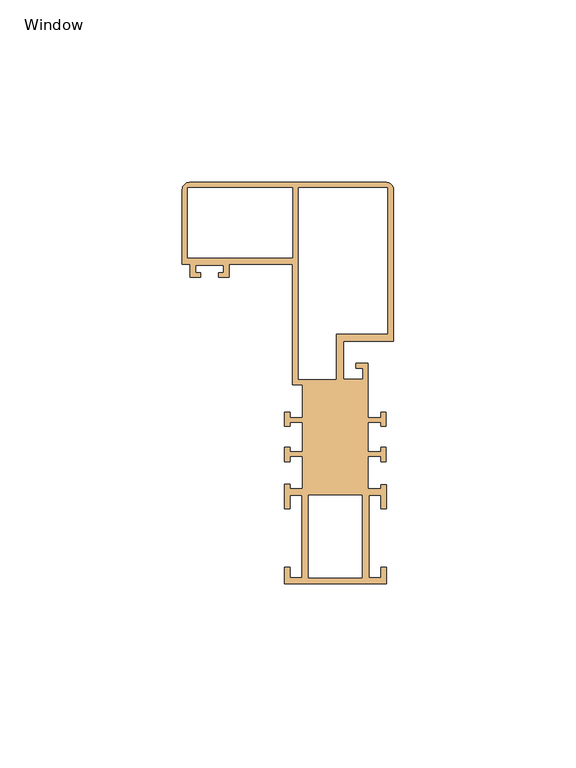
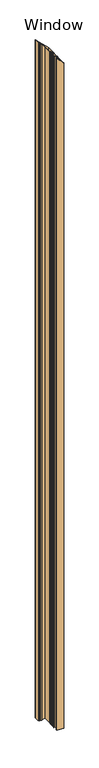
"""IFC4 building model written with IfcOpenShell, lengths in millimetres: door geometry, QO-V-QB_Door Module : Window."""

from ifc_helpers import new_model, si_unit, frame, origin, place, context, project, spatial, circle_curve, ellipse_curve, source, transform, mapped, element, save
from ifc_brep_helpers import plane_surface, cylinder_surface, advanced_brep


def window_384785f8(model_context):
    return source(origin(), model_context, "Body", "AdvancedBrep", [
        advanced_brep(
        [(-970.9523452, -75.0037405, -10.0), (-974.4523458, -75.0037405, -10.0), (-974.4523458, -76.5037405, -10.0), (-975.9523458, -76.5037405, -10.0), (-975.9523458, -72.6037405, -10.0), (-974.4523458, -72.6037405, -10.0), (-974.4523458, -73.8037405, -10.0), (-970.9523458, -73.8037405, -10.0), (-970.9523458, -65.7037405, -10.0), (-974.4523458, -65.7037405, -10.0), (-974.4523458, -66.9037405, -10.0), (-975.9523458, -66.9037405, -10.0), (-975.9523458, -63.0037405, -10.0), (-974.4523458, -63.0037405, -10.0), (-974.4523458, -64.5037405, -10.0), (-970.9523459, -64.5037405, -10.0), (-970.9523459, -55.4999986, -10.0), (-973.8, -55.4999986, -10.0), (-973.8, -22.4, -10.0), (-991.2018295, -22.4, -10.0), (-991.2018295, -26.0, -10.0), (-994.0018295, -26.0, -10.0), (-994.0018295, -24.7, -10.0), (-992.7018295, -24.7, -10.0), (-992.7018295, -22.7, -10.0), (-1000.3018295, -22.7, -10.0), (-1000.3018295, -24.8, -10.0), (-999.0018295, -24.8, -10.0), (-999.0018295, -26.0, -10.0), (-1001.8018295, -26.0, -10.0), (-1001.8018295, -22.4, -10.0), (-1004.0, -22.4, -10.0), (-1004.0, -2.0, -10.0), (-1002.0, 0.0, -10.0), (-948.0, 0.0, -10.0), (-946.0, -2.0, -10.0), (-946.0, -43.5, -10.0), (-959.8, -43.5, -10.0), (-959.8, -54.0, -10.0), (-954.4, -54.0, -10.0), (-954.4, -51.0, -10.0), (-956.3, -51.0, -10.0), (-956.3, -49.6, -10.0), (-953.0, -49.6, -10.0), (-953.0, -64.5037405, -10.0), (-949.5513133, -64.5037405, -10.0), (-949.5513133, -63.0037405, -10.0), (-948.0513133, -63.0037405, -10.0), (-948.0513133, -66.9037405, -10.0), (-949.5513133, -66.9037405, -10.0), (-949.5513133, -65.7037405, -10.0), (-953.0513133, -65.7037405, -10.0), (-953.0513133, -73.8037405, -10.0), (-949.5513133, -73.8037405, -10.0), (-949.5513133, -72.6037405, -10.0), (-948.0513133, -72.6037405, -10.0), (-948.0513133, -76.5037405, -10.0), (-949.5513133, -76.5037405, -10.0), (-949.5513133, -75.0037405, -10.0), (-953.0513139, -75.0037405, -10.0), (-953.0513139, -84.0037561, -10.0), (-949.5018295, -84.0037561, -10.0), (-949.5018295, -82.8037561, -10.0), (-948.0018295, -82.8037561, -10.0), (-948.0018295, -89.5037561, -10.0), (-949.5018295, -89.5037561, -10.0), (-949.5018295, -85.7037561, -10.0), (-952.8018295, -85.7037561, -10.0), (-952.8018295, -108.3037561, -10.0), (-949.5018295, -108.3037561, -10.0), (-949.5018295, -105.5037561, -10.0), (-948.0018295, -105.5037561, -10.0), (-948.0018295, -110.0037561, -10.0), (-976.0018295, -110.0037561, -10.0), (-976.0018295, -105.5037561, -10.0), (-974.5018295, -105.5037561, -10.0), (-974.5018295, -108.3037561, -10.0), (-971.2018295, -108.3037561, -10.0), (-971.2018295, -85.7037561, -10.0), (-974.5018295, -85.7037561, -10.0), (-974.5018295, -89.5037561, -10.0), (-976.0018295, -89.5037561, -10.0), (-976.0018295, -82.8037561, -10.0), (-974.5018295, -82.8037561, -10.0), (-974.5018295, -84.0037561, -10.0), (-970.9523452, -84.0037561, -10.0), (-973.8, -1.5, -10.0), (-1002.5, -1.5, -10.0), (-1002.5, -20.7, -10.0), (-973.8, -20.7, -10.0), (-961.8, -41.5, -10.0), (-947.7, -41.5, -10.0), (-947.7, -1.5, -10.0), (-972.1, -1.5, -10.0), (-972.1, -54.0, -10.0), (-961.8, -54.0, -10.0), (-954.7018295, -108.3037561, -10.0), (-954.7018295, -85.7037561, -10.0), (-969.3018295, -85.7037561, -10.0), (-969.3018295, -108.3037561, -10.0), (-970.9523452, -75.0037405, 2954.4523452), (-974.4523458, -75.0037405, 2957.9523458), (-974.4523458, -76.5037405, 2957.9523458), (-975.9523458, -76.5037405, 2959.4523458), (-975.9523458, -72.6037405, 2959.4523458), (-974.4523458, -72.6037405, 2957.9523458), (-974.4523458, -73.8037405, 2957.9523458), (-970.9523458, -73.8037405, 2954.4523458), (-970.9523458, -65.7037405, 2954.4523458), (-974.4523458, -65.7037405, 2957.9523458), (-974.4523458, -66.9037405, 2957.9523458), (-975.9523458, -66.9037405, 2959.4523458), (-975.9523458, -63.0037405, 2959.4523458), (-974.4523458, -63.0037405, 2957.9523458), (-974.4523458, -64.5037405, 2957.9523458), (-970.9523459, -64.5037405, 2954.4523459), (-970.9523459, -55.4999986, 2954.4523459), (-973.8, -55.4999986, 2957.3), (-973.8, -22.4, 2957.3), (-991.2018295, -22.4, 2974.7018295), (-991.2018295, -26.0, 2974.7018295), (-994.0018295, -26.0, 2977.5018295), (-994.0018295, -24.7, 2977.5018295), (-992.7018295, -24.7, 2976.2018295), (-992.7018295, -22.7, 2976.2018295), (-1000.3018295, -22.7, 2983.8018295), (-1000.3018295, -24.8, 2983.8018295), (-999.0018295, -24.8, 2982.5018295), (-999.0018295, -26.0, 2982.5018295), (-1001.8018295, -26.0, 2985.3018295), (-1001.8018295, -22.4, 2985.3018295), (-1004.0, -22.4, 2987.5), (-1004.0, -2.0, 2987.5), (-1002.0, 0.0, 2985.5), (-948.0, 0.0, 2931.5), (-946.0, -2.0, 2929.5), (-946.0, -43.5, 2929.5), (-959.8, -43.5, 2943.3), (-959.8, -54.0, 2943.3), (-954.4, -54.0, 2937.9), (-954.4, -51.0, 2937.9), (-956.3, -51.0, 2939.8), (-956.3, -49.6, 2939.8), (-953.0, -49.6, 2936.5), (-953.0, -64.5037405, 2936.5), (-949.5513133, -64.5037405, 2933.0513133), (-949.5513133, -63.0037405, 2933.0513133), (-948.0513133, -63.0037405, 2931.5513133), (-948.0513133, -66.9037405, 2931.5513133), (-949.5513133, -66.9037405, 2933.0513133), (-949.5513133, -65.7037405, 2933.0513133), (-953.0513133, -65.7037405, 2936.5513133), (-953.0513133, -73.8037405, 2936.5513133), (-949.5513133, -73.8037405, 2933.0513133), (-949.5513133, -72.6037405, 2933.0513133), (-948.0513133, -72.6037405, 2931.5513133), (-948.0513133, -76.5037405, 2931.5513133), (-949.5513133, -76.5037405, 2933.0513133), (-949.5513133, -75.0037405, 2933.0513133), (-953.0513139, -75.0037405, 2936.5513139), (-953.0513139, -84.0037561, 2936.5513139), (-949.5018295, -84.0037561, 2933.0018295), (-949.5018295, -82.8037561, 2933.0018295), (-948.0018295, -82.8037561, 2931.5018295), (-948.0018295, -89.5037561, 2931.5018295), (-949.5018295, -89.5037561, 2933.0018295), (-949.5018295, -85.7037561, 2933.0018295), (-952.8018295, -85.7037561, 2936.3018295), (-952.8018295, -108.3037561, 2936.3018295), (-949.5018295, -108.3037561, 2933.0018295), (-949.5018295, -105.5037561, 2933.0018295), (-948.0018295, -105.5037561, 2931.5018295), (-948.0018295, -110.0037561, 2931.5018295), (-976.0018295, -110.0037561, 2959.5018295), (-976.0018295, -105.5037561, 2959.5018295), (-974.5018295, -105.5037561, 2958.0018295), (-974.5018295, -108.3037561, 2958.0018295), (-971.2018295, -108.3037561, 2954.7018295), (-971.2018295, -85.7037561, 2954.7018295), (-974.5018295, -85.7037561, 2958.0018295), (-974.5018295, -89.5037561, 2958.0018295), (-976.0018295, -89.5037561, 2959.5018295), (-976.0018295, -82.8037561, 2959.5018295), (-974.5018295, -82.8037561, 2958.0018295), (-974.5018295, -84.0037561, 2958.0018295), (-970.9523452, -84.0037561, 2954.4523452), (-973.8, -1.5, 2957.3), (-1002.5, -1.5, 2986.0), (-1002.5, -20.7, 2986.0), (-973.8, -20.7, 2957.3), (-961.8, -41.5, 2945.3), (-947.7, -41.5, 2931.2), (-947.7, -1.5, 2931.2), (-972.1, -1.5, 2955.6), (-972.1, -54.0, 2955.6), (-961.8, -54.0, 2945.3), (-954.7018295, -108.3037561, 2938.2018295), (-954.7018295, -85.7037561, 2938.2018295), (-969.3018295, -85.7037561, 2952.8018295), (-969.3018295, -108.3037561, 2952.8018295)],
        [
            (0, 1),
            (1, 2),
            (2, 3),
            (3, 4),
            (4, 5),
            (5, 6),
            (6, 7),
            (7, 8),
            (8, 9),
            (9, 10),
            (10, 11),
            (11, 12),
            (12, 13),
            (13, 14),
            (14, 15),
            (15, 16),
            (16, 17),
            (17, 18),
            (18, 19),
            (19, 20),
            (20, 21),
            (21, 22),
            (22, 23),
            (23, 24),
            (24, 25),
            (25, 26),
            (26, 27),
            (27, 28),
            (28, 29),
            (29, 30),
            (30, 31),
            (31, 32),
            (32, 33, circle_curve(frame((-1002.0, -2.0, -10.0), z_axis=(0.0, 0.0, -1.0), x_axis=(0.0, -1.0, 0.0)), 2.0)),
            (33, 34),
            (34, 35, circle_curve(frame((-948.0, -2.0, -10.0), z_axis=(0.0, 0.0, -1.0), x_axis=(0.0, -1.0, 0.0)), 2.0)),
            (35, 36),
            (36, 37),
            (37, 38),
            (38, 39),
            (39, 40),
            (40, 41),
            (41, 42),
            (42, 43),
            (43, 44),
            (44, 45),
            (45, 46),
            (46, 47),
            (47, 48),
            (48, 49),
            (49, 50),
            (50, 51),
            (51, 52),
            (52, 53),
            (53, 54),
            (54, 55),
            (55, 56),
            (56, 57),
            (57, 58),
            (58, 59),
            (59, 60),
            (60, 61),
            (61, 62),
            (62, 63),
            (63, 64),
            (64, 65),
            (65, 66),
            (66, 67),
            (67, 68),
            (68, 69),
            (69, 70),
            (70, 71),
            (71, 72),
            (72, 73),
            (73, 74),
            (74, 75),
            (75, 76),
            (76, 77),
            (77, 78),
            (78, 79),
            (79, 80),
            (80, 81),
            (81, 82),
            (82, 83),
            (83, 84),
            (84, 85),
            (85, 0),
            (86, 87),
            (87, 88),
            (88, 89),
            (89, 86),
            (90, 91),
            (91, 92),
            (92, 93),
            (93, 94),
            (94, 95),
            (95, 90),
            (96, 97),
            (97, 98),
            (98, 99),
            (99, 96),
            (0, 100),
            (100, 101),
            (101, 1),
            (101, 102),
            (102, 2),
            (102, 103),
            (103, 3),
            (103, 104),
            (104, 4),
            (104, 105),
            (105, 5),
            (105, 106),
            (106, 6),
            (106, 107),
            (107, 7),
            (107, 108),
            (108, 8),
            (108, 109),
            (109, 9),
            (109, 110),
            (110, 10),
            (110, 111),
            (111, 11),
            (111, 112),
            (112, 12),
            (112, 113),
            (113, 13),
            (113, 114),
            (114, 14),
            (114, 115),
            (115, 15),
            (115, 116),
            (116, 16),
            (116, 117),
            (117, 17),
            (117, 118),
            (118, 18),
            (118, 119),
            (119, 19),
            (119, 120),
            (120, 20),
            (120, 121),
            (121, 21),
            (121, 122),
            (122, 22),
            (122, 123),
            (123, 23),
            (123, 124),
            (124, 24),
            (124, 125),
            (125, 25),
            (125, 126),
            (126, 26),
            (126, 127),
            (127, 27),
            (127, 128),
            (128, 28),
            (128, 129),
            (129, 29),
            (129, 130),
            (130, 30),
            (130, 131),
            (131, 31),
            (131, 132),
            (132, 32),
            (132, 133, ellipse_curve(frame((-1002.0, -2.0, 2985.5), z_axis=(-0.7071067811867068, 0.0, -0.7071067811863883), x_axis=(-0.7071067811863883, 0.0, 0.7071067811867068)), 2.8284271, 2.0)),
            (133, 33),
            (133, 134),
            (134, 34),
            (134, 135, ellipse_curve(frame((-948.0, -2.0, 2931.5), z_axis=(-0.7071067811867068, 0.0, -0.7071067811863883), x_axis=(-0.7071067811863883, 0.0, 0.7071067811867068)), 2.8284271, 2.0)),
            (135, 35),
            (135, 136),
            (136, 36),
            (136, 137),
            (137, 37),
            (137, 138),
            (138, 38),
            (138, 139),
            (139, 39),
            (139, 140),
            (140, 40),
            (140, 141),
            (141, 41),
            (141, 142),
            (142, 42),
            (142, 143),
            (143, 43),
            (143, 144),
            (144, 44),
            (144, 145),
            (145, 45),
            (145, 146),
            (146, 46),
            (146, 147),
            (147, 47),
            (147, 148),
            (148, 48),
            (148, 149),
            (149, 49),
            (149, 150),
            (150, 50),
            (150, 151),
            (151, 51),
            (151, 152),
            (152, 52),
            (152, 153),
            (153, 53),
            (153, 154),
            (154, 54),
            (154, 155),
            (155, 55),
            (155, 156),
            (156, 56),
            (156, 157),
            (157, 57),
            (157, 158),
            (158, 58),
            (158, 159),
            (159, 59),
            (159, 160),
            (160, 60),
            (160, 161),
            (161, 61),
            (161, 162),
            (162, 62),
            (162, 163),
            (163, 63),
            (163, 164),
            (164, 64),
            (164, 165),
            (165, 65),
            (165, 166),
            (166, 66),
            (166, 167),
            (167, 67),
            (167, 168),
            (168, 68),
            (168, 169),
            (169, 69),
            (169, 170),
            (170, 70),
            (170, 171),
            (171, 71),
            (171, 172),
            (172, 72),
            (172, 173),
            (173, 73),
            (173, 174),
            (174, 74),
            (174, 175),
            (175, 75),
            (175, 176),
            (176, 76),
            (176, 177),
            (177, 77),
            (177, 178),
            (178, 78),
            (178, 179),
            (179, 79),
            (179, 180),
            (180, 80),
            (180, 181),
            (181, 81),
            (181, 182),
            (182, 82),
            (182, 183),
            (183, 83),
            (183, 184),
            (184, 84),
            (184, 185),
            (185, 85),
            (185, 100),
            (86, 186),
            (186, 187),
            (187, 87),
            (187, 188),
            (188, 88),
            (188, 189),
            (189, 89),
            (189, 186),
            (90, 190),
            (190, 191),
            (191, 91),
            (191, 192),
            (192, 92),
            (192, 193),
            (193, 93),
            (193, 194),
            (194, 94),
            (194, 195),
            (195, 95),
            (195, 190),
            (96, 196),
            (196, 197),
            (197, 97),
            (197, 198),
            (198, 98),
            (198, 199),
            (199, 99),
            (199, 196),
        ],
        [
            plane_surface(frame((-1000.0, 0.0, -10.0), z_axis=(0.0, 0.0, -1.0), x_axis=(0.0, -1.0, 0.0))),
            plane_surface(frame((-974.4523458, -75.0037405, 2987.5), z_axis=(0.0, -1.0, 0.0), x_axis=(0.0, 0.0, -1.0))),
            plane_surface(frame((-974.4523458, -76.5037405, 2987.5), z_axis=(1.0, 0.0, 0.0), x_axis=(0.0, 0.0, -1.0))),
            plane_surface(frame((-975.9523458, -76.5037405, 2987.5), z_axis=(0.0, -1.0, 0.0), x_axis=(0.0, 0.0, -1.0))),
            plane_surface(frame((-975.9523458, -72.6037405, 2987.5), z_axis=(-1.0, 0.0, 0.0), x_axis=(0.0, 0.0, -1.0))),
            plane_surface(frame((-974.4523458, -72.6037405, 2987.5), z_axis=(0.0, 1.0, 0.0), x_axis=(0.0, 0.0, -1.0))),
            plane_surface(frame((-974.4523458, -73.8037405, 2987.5), z_axis=(1.0, 0.0, 0.0), x_axis=(0.0, 0.0, -1.0))),
            plane_surface(frame((-970.9523458, -73.8037405, 2987.5), z_axis=(0.0, 1.0, 0.0), x_axis=(0.0, 0.0, -1.0))),
            plane_surface(frame((-970.9523458, -65.7037405, 2987.5), z_axis=(-1.0, 0.0, 0.0), x_axis=(0.0, 0.0, -1.0))),
            plane_surface(frame((-974.4523458, -65.7037405, 2987.5), z_axis=(0.0, -1.0, 0.0), x_axis=(0.0, 0.0, -1.0))),
            plane_surface(frame((-974.4523458, -66.9037405, 2987.5), z_axis=(1.0, 0.0, 0.0), x_axis=(0.0, 0.0, -1.0))),
            plane_surface(frame((-975.9523458, -66.9037405, 2987.5), z_axis=(0.0, -1.0, 0.0), x_axis=(0.0, 0.0, -1.0))),
            plane_surface(frame((-975.9523458, -63.0037405, 2987.5), z_axis=(-1.0, 0.0, 0.0), x_axis=(0.0, 0.0, -1.0))),
            plane_surface(frame((-974.4523458, -63.0037405, 2987.5), z_axis=(0.0, 1.0, 0.0), x_axis=(0.0, 0.0, -1.0))),
            plane_surface(frame((-974.4523458, -64.5037405, 2987.5), z_axis=(1.0, 0.0, 0.0), x_axis=(0.0, 0.0, -1.0))),
            plane_surface(frame((-970.9523459, -64.5037405, 2987.5), z_axis=(0.0, 1.0, 0.0), x_axis=(0.0, 0.0, -1.0))),
            plane_surface(frame((-970.9523459, -55.4999986, 2987.5), z_axis=(-1.0, 0.0, 0.0), x_axis=(0.0, 0.0, -1.0))),
            plane_surface(frame((-973.8, -55.4999986, 2987.5), z_axis=(0.0, -1.0, 0.0), x_axis=(0.0, 0.0, -1.0))),
            plane_surface(frame((-973.8, -22.4, 2987.5), z_axis=(-1.0, 0.0, 0.0), x_axis=(0.0, 0.0, -1.0))),
            plane_surface(frame((-991.2018295, -22.4, 2987.5), z_axis=(0.0, -1.0, 0.0), x_axis=(0.0, 0.0, -1.0))),
            plane_surface(frame((-991.2018295, -26.0, 2987.5), z_axis=(1.0, 0.0, 0.0), x_axis=(0.0, 0.0, -1.0))),
            plane_surface(frame((-994.0018295, -26.0, 2987.5), z_axis=(0.0, -1.0, 0.0), x_axis=(0.0, 0.0, -1.0))),
            plane_surface(frame((-994.0018295, -24.7, 2987.5), z_axis=(-1.0, 0.0, 0.0), x_axis=(0.0, 0.0, -1.0))),
            plane_surface(frame((-992.7018295, -24.7, 2987.5), z_axis=(0.0, 1.0, 0.0), x_axis=(0.0, 0.0, -1.0))),
            plane_surface(frame((-992.7018295, -22.7, 2987.5), z_axis=(-1.0, 0.0, 0.0), x_axis=(0.0, 0.0, -1.0))),
            plane_surface(frame((-1000.3018295, -22.7, 2987.5), z_axis=(0.0, -1.0, 0.0), x_axis=(0.0, 0.0, -1.0))),
            plane_surface(frame((-1000.3018295, -24.8, 2987.5), z_axis=(1.0, 0.0, 0.0), x_axis=(0.0, 0.0, -1.0))),
            plane_surface(frame((-999.0018295, -24.8, 2987.5), z_axis=(0.0, 1.0, 0.0), x_axis=(0.0, 0.0, -1.0))),
            plane_surface(frame((-999.0018295, -26.0, 2987.5), z_axis=(1.0, 0.0, 0.0), x_axis=(0.0, 0.0, -1.0))),
            plane_surface(frame((-1001.8018295, -26.0, 2987.5), z_axis=(0.0, -1.0, 0.0), x_axis=(0.0, 0.0, -1.0))),
            plane_surface(frame((-1001.8018295, -22.4, 2987.5), z_axis=(-1.0, 0.0, 0.0), x_axis=(0.0, 0.0, -1.0))),
            plane_surface(frame((-1004.0, -22.4, 2987.5), z_axis=(0.0, -1.0, 0.0), x_axis=(0.0, 0.0, -1.0))),
            plane_surface(frame((-1004.0, -2.0, 2987.5), z_axis=(-1.0, 0.0, 0.0), x_axis=(0.0, 0.0, -1.0))),
            cylinder_surface(frame((-1002.0, -2.0, 2987.5), z_axis=(0.0, 0.0, 1.0), x_axis=(0.0, -1.0, 0.0)), 2.0),
            plane_surface(frame((-948.0, 0.0, 2987.5), z_axis=(0.0, 1.0, 0.0), x_axis=(0.0, 0.0, -1.0))),
            cylinder_surface(frame((-948.0, -2.0, 2987.5), z_axis=(0.0, 0.0, 1.0), x_axis=(0.0, -1.0, 0.0)), 2.0),
            plane_surface(frame((-946.0, -43.5, 2987.5), z_axis=(1.0, 0.0, 0.0), x_axis=(0.0, 0.0, -1.0))),
            plane_surface(frame((-959.8, -43.5, 2987.5), z_axis=(0.0, -1.0, 0.0), x_axis=(0.0, 0.0, -1.0))),
            plane_surface(frame((-959.8, -54.0, 2987.5), z_axis=(1.0, 0.0, 0.0), x_axis=(0.0, 0.0, -1.0))),
            plane_surface(frame((-954.4, -54.0, 2987.5), z_axis=(0.0, 1.0, 0.0), x_axis=(0.0, 0.0, -1.0))),
            plane_surface(frame((-954.4, -51.0, 2987.5), z_axis=(-1.0, 0.0, 0.0), x_axis=(0.0, 0.0, -1.0))),
            plane_surface(frame((-956.3, -51.0, 2987.5), z_axis=(0.0, -1.0, 0.0), x_axis=(0.0, 0.0, -1.0))),
            plane_surface(frame((-956.3, -49.6, 2987.5), z_axis=(-1.0, 0.0, 0.0), x_axis=(0.0, 0.0, -1.0))),
            plane_surface(frame((-953.0, -49.6, 2987.5), z_axis=(0.0, 1.0, 0.0), x_axis=(0.0, 0.0, -1.0))),
            plane_surface(frame((-953.0, -64.5037405, 2987.5), z_axis=(1.0, 0.0, 0.0), x_axis=(0.0, 0.0, -1.0))),
            plane_surface(frame((-949.5513133, -64.5037405, 2987.5), z_axis=(0.0, 1.0, 0.0), x_axis=(0.0, 0.0, -1.0))),
            plane_surface(frame((-949.5513133, -63.0037405, 2987.5), z_axis=(-1.0, 0.0, 0.0), x_axis=(0.0, 0.0, -1.0))),
            plane_surface(frame((-948.0513133, -63.0037405, 2987.5), z_axis=(0.0, 1.0, 0.0), x_axis=(0.0, 0.0, -1.0))),
            plane_surface(frame((-948.0513133, -66.9037405, 2987.5), z_axis=(1.0, 0.0, 0.0), x_axis=(0.0, 0.0, -1.0))),
            plane_surface(frame((-949.5513133, -66.9037405, 2987.5), z_axis=(0.0, -1.0, 0.0), x_axis=(0.0, 0.0, -1.0))),
            plane_surface(frame((-949.5513133, -65.7037405, 2987.5), z_axis=(-1.0, 0.0, 0.0), x_axis=(0.0, 0.0, -1.0))),
            plane_surface(frame((-953.0513133, -65.7037405, 2987.5), z_axis=(0.0, -1.0, 0.0), x_axis=(0.0, 0.0, -1.0))),
            plane_surface(frame((-953.0513133, -73.8037405, 2987.5), z_axis=(1.0, 0.0, 0.0), x_axis=(0.0, 0.0, -1.0))),
            plane_surface(frame((-949.5513133, -73.8037405, 2987.5), z_axis=(0.0, 1.0, 0.0), x_axis=(0.0, 0.0, -1.0))),
            plane_surface(frame((-949.5513133, -72.6037405, 2987.5), z_axis=(-1.0, 0.0, 0.0), x_axis=(0.0, 0.0, -1.0))),
            plane_surface(frame((-948.0513133, -72.6037405, 2987.5), z_axis=(0.0, 1.0, 0.0), x_axis=(0.0, 0.0, -1.0))),
            plane_surface(frame((-948.0513133, -76.5037405, 2987.5), z_axis=(1.0, 0.0, 0.0), x_axis=(0.0, 0.0, -1.0))),
            plane_surface(frame((-949.5513133, -76.5037405, 2987.5), z_axis=(0.0, -1.0, 0.0), x_axis=(0.0, 0.0, -1.0))),
            plane_surface(frame((-949.5513133, -75.0037405, 2987.5), z_axis=(-1.0, 0.0, 0.0), x_axis=(0.0, 0.0, -1.0))),
            plane_surface(frame((-953.0513139, -75.0037405, 2987.5), z_axis=(0.0, -1.0, 0.0), x_axis=(0.0, 0.0, -1.0))),
            plane_surface(frame((-953.0513139, -84.0037561, 2987.5), z_axis=(1.0, 0.0, 0.0), x_axis=(0.0, 0.0, -1.0))),
            plane_surface(frame((-949.5018295, -84.0037561, 2987.5), z_axis=(0.0, 1.0, 0.0), x_axis=(0.0, 0.0, -1.0))),
            plane_surface(frame((-949.5018295, -82.8037561, 2987.5), z_axis=(-1.0, 0.0, 0.0), x_axis=(0.0, 0.0, -1.0))),
            plane_surface(frame((-948.0018295, -82.8037561, 2987.5), z_axis=(0.0, 1.0, 0.0), x_axis=(0.0, 0.0, -1.0))),
            plane_surface(frame((-948.0018295, -89.5037561, 2987.5), z_axis=(1.0, 0.0, 0.0), x_axis=(0.0, 0.0, -1.0))),
            plane_surface(frame((-949.5018295, -89.5037561, 2987.5), z_axis=(0.0, -1.0, 0.0), x_axis=(0.0, 0.0, -1.0))),
            plane_surface(frame((-949.5018295, -85.7037561, 2987.5), z_axis=(-1.0, 0.0, 0.0), x_axis=(0.0, 0.0, -1.0))),
            plane_surface(frame((-952.8018295, -85.7037561, 2987.5), z_axis=(0.0, -1.0, 0.0), x_axis=(0.0, 0.0, -1.0))),
            plane_surface(frame((-952.8018295, -108.3037561, 2987.5), z_axis=(1.0, 0.0, 0.0), x_axis=(0.0, 0.0, -1.0))),
            plane_surface(frame((-949.5018295, -108.3037561, 2987.5), z_axis=(0.0, 1.0, 0.0), x_axis=(0.0, 0.0, -1.0))),
            plane_surface(frame((-949.5018295, -105.5037561, 2987.5), z_axis=(-1.0, 0.0, 0.0), x_axis=(0.0, 0.0, -1.0))),
            plane_surface(frame((-948.0018295, -105.5037561, 2987.5), z_axis=(0.0, 1.0, 0.0), x_axis=(0.0, 0.0, -1.0))),
            plane_surface(frame((-948.0018295, -110.0037561, 2987.5), z_axis=(1.0, 0.0, 0.0), x_axis=(0.0, 0.0, -1.0))),
            plane_surface(frame((-976.0018295, -110.0037561, 2987.5), z_axis=(0.0, -1.0, 0.0), x_axis=(0.0, 0.0, -1.0))),
            plane_surface(frame((-976.0018295, -105.5037561, 2987.5), z_axis=(-1.0, 0.0, 0.0), x_axis=(0.0, 0.0, -1.0))),
            plane_surface(frame((-974.5018295, -105.5037561, 2987.5), z_axis=(0.0, 1.0, 0.0), x_axis=(0.0, 0.0, -1.0))),
            plane_surface(frame((-974.5018295, -108.3037561, 2987.5), z_axis=(1.0, 0.0, 0.0), x_axis=(0.0, 0.0, -1.0))),
            plane_surface(frame((-971.2018295, -108.3037561, 2987.5), z_axis=(0.0, 1.0, 0.0), x_axis=(0.0, 0.0, -1.0))),
            plane_surface(frame((-971.2018295, -85.7037561, 2987.5), z_axis=(-1.0, 0.0, 0.0), x_axis=(0.0, 0.0, -1.0))),
            plane_surface(frame((-974.5018295, -85.7037561, 2987.5), z_axis=(0.0, -1.0, 0.0), x_axis=(0.0, 0.0, -1.0))),
            plane_surface(frame((-974.5018295, -89.5037561, 2987.5), z_axis=(1.0, 0.0, 0.0), x_axis=(0.0, 0.0, -1.0))),
            plane_surface(frame((-976.0018295, -89.5037561, 2987.5), z_axis=(0.0, -1.0, 0.0), x_axis=(0.0, 0.0, -1.0))),
            plane_surface(frame((-976.0018295, -82.8037561, 2987.5), z_axis=(-1.0, 0.0, 0.0), x_axis=(0.0, 0.0, -1.0))),
            plane_surface(frame((-974.5018295, -82.8037561, 2987.5), z_axis=(0.0, 1.0, 0.0), x_axis=(0.0, 0.0, -1.0))),
            plane_surface(frame((-974.5018295, -84.0037561, 2987.5), z_axis=(1.0, 0.0, 0.0), x_axis=(0.0, 0.0, -1.0))),
            plane_surface(frame((-970.9523452, -84.0037561, 2987.5), z_axis=(0.0, 1.0, 0.0), x_axis=(0.0, 0.0, -1.0))),
            plane_surface(frame((-970.9523452, -75.0037405, 2987.5), z_axis=(-1.0, 0.0, 0.0), x_axis=(0.0, 0.0, -1.0))),
            plane_surface(frame((-1002.5, -1.5, 2987.5), z_axis=(0.0, -1.0, 0.0), x_axis=(0.0, 0.0, -1.0))),
            plane_surface(frame((-1002.5, -20.7, 2987.5), z_axis=(1.0, 0.0, 0.0), x_axis=(0.0, 0.0, -1.0))),
            plane_surface(frame((-973.8, -20.7, 2987.5), z_axis=(0.0, 1.0, 0.0), x_axis=(0.0, 0.0, -1.0))),
            plane_surface(frame((-973.8, -1.5, 2987.5), z_axis=(-1.0, 0.0, 0.0), x_axis=(0.0, 0.0, -1.0))),
            plane_surface(frame((-947.7, -41.5, 2987.5), z_axis=(0.0, 1.0, 0.0), x_axis=(0.0, 0.0, -1.0))),
            plane_surface(frame((-947.7, -1.5, 2987.5), z_axis=(-1.0, 0.0, 0.0), x_axis=(0.0, 0.0, -1.0))),
            plane_surface(frame((-972.1, -1.5, 2987.5), z_axis=(0.0, -1.0, 0.0), x_axis=(0.0, 0.0, -1.0))),
            plane_surface(frame((-972.1, -54.0, 2987.5), z_axis=(1.0, 0.0, 0.0), x_axis=(0.0, 0.0, -1.0))),
            plane_surface(frame((-961.8, -54.0, 2987.5), z_axis=(0.0, 1.0, 0.0), x_axis=(0.0, 0.0, -1.0))),
            plane_surface(frame((-961.8, -41.5, 2987.5), z_axis=(-1.0, 0.0, 0.0), x_axis=(0.0, 0.0, -1.0))),
            plane_surface(frame((-954.7018295, -85.7037561, 2987.5), z_axis=(-1.0, 0.0, 0.0), x_axis=(0.0, 0.0, -1.0))),
            plane_surface(frame((-969.3018295, -85.7037561, 2987.5), z_axis=(0.0, -1.0, 0.0), x_axis=(0.0, 0.0, -1.0))),
            plane_surface(frame((-969.3018295, -108.3037561, 2987.5), z_axis=(1.0, 0.0, 0.0), x_axis=(0.0, 0.0, -1.0))),
            plane_surface(frame((-954.7018295, -108.3037561, 2987.5), z_axis=(0.0, 1.0, 0.0), x_axis=(0.0, 0.0, -1.0))),
            plane_surface(frame((-1004.0, -120.0, 2987.5), z_axis=(0.7071067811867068, 0.0, 0.7071067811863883), x_axis=(0.0, 1.0, 0.0))),
        ],
        [
            (0, [[1, 2, 3, 4, 5, 6, 7, 8, 9, 10, 11, 12, 13, 14, 15, 16, 17, 18, 19, 20, 21, 22, 23, 24, 25, 26, 27, 28, 29, 30, 31, 32, 33, 34, 35, 36, 37, 38, 39, 40, 41, 42, 43, 44, 45, 46, 47, 48, 49, 50, 51, 52, 53, 54, 55, 56, 57, 58, 59, 60, 61, 62, 63, 64, 65, 66, 67, 68, 69, 70, 71, 72, 73, 74, 75, 76, 77, 78, 79, 80, 81, 82, 83, 84, 85, 86], [87, 88, 89, 90], [91, 92, 93, 94, 95, 96], [97, 98, 99, 100]]),
            (1, [[-1, 101, 102, 103]]),
            (2, [[-2, -103, 104, 105]]),
            (3, [[-3, -105, 106, 107]]),
            (4, [[-4, -107, 108, 109]]),
            (5, [[-5, -109, 110, 111]]),
            (6, [[-6, -111, 112, 113]]),
            (7, [[-7, -113, 114, 115]]),
            (8, [[-8, -115, 116, 117]]),
            (9, [[-9, -117, 118, 119]]),
            (10, [[-10, -119, 120, 121]]),
            (11, [[-11, -121, 122, 123]]),
            (12, [[-12, -123, 124, 125]]),
            (13, [[-13, -125, 126, 127]]),
            (14, [[-14, -127, 128, 129]]),
            (15, [[-15, -129, 130, 131]]),
            (16, [[-16, -131, 132, 133]]),
            (17, [[-17, -133, 134, 135]]),
            (18, [[-18, -135, 136, 137]]),
            (19, [[-19, -137, 138, 139]]),
            (20, [[-20, -139, 140, 141]]),
            (21, [[-21, -141, 142, 143]]),
            (22, [[-22, -143, 144, 145]]),
            (23, [[-23, -145, 146, 147]]),
            (24, [[-24, -147, 148, 149]]),
            (25, [[-25, -149, 150, 151]]),
            (26, [[-26, -151, 152, 153]]),
            (27, [[-27, -153, 154, 155]]),
            (28, [[-28, -155, 156, 157]]),
            (29, [[-29, -157, 158, 159]]),
            (30, [[-30, -159, 160, 161]]),
            (31, [[-31, -161, 162, 163]]),
            (32, [[-32, -163, 164, 165]]),
            (33, [[-33, -165, 166, 167]]),
            (34, [[-34, -167, 168, 169]]),
            (35, [[-35, -169, 170, 171]]),
            (36, [[-36, -171, 172, 173]]),
            (37, [[-37, -173, 174, 175]]),
            (38, [[-38, -175, 176, 177]]),
            (39, [[-39, -177, 178, 179]]),
            (40, [[-40, -179, 180, 181]]),
            (41, [[-41, -181, 182, 183]]),
            (42, [[-42, -183, 184, 185]]),
            (43, [[-43, -185, 186, 187]]),
            (44, [[-44, -187, 188, 189]]),
            (45, [[-45, -189, 190, 191]]),
            (46, [[-46, -191, 192, 193]]),
            (47, [[-47, -193, 194, 195]]),
            (48, [[-48, -195, 196, 197]]),
            (49, [[-49, -197, 198, 199]]),
            (50, [[-50, -199, 200, 201]]),
            (51, [[-51, -201, 202, 203]]),
            (52, [[-52, -203, 204, 205]]),
            (53, [[-53, -205, 206, 207]]),
            (54, [[-54, -207, 208, 209]]),
            (55, [[-55, -209, 210, 211]]),
            (56, [[-56, -211, 212, 213]]),
            (57, [[-57, -213, 214, 215]]),
            (58, [[-58, -215, 216, 217]]),
            (59, [[-59, -217, 218, 219]]),
            (60, [[-60, -219, 220, 221]]),
            (61, [[-61, -221, 222, 223]]),
            (62, [[-62, -223, 224, 225]]),
            (63, [[-63, -225, 226, 227]]),
            (64, [[-64, -227, 228, 229]]),
            (65, [[-65, -229, 230, 231]]),
            (66, [[-66, -231, 232, 233]]),
            (67, [[-67, -233, 234, 235]]),
            (68, [[-68, -235, 236, 237]]),
            (69, [[-69, -237, 238, 239]]),
            (70, [[-70, -239, 240, 241]]),
            (71, [[-71, -241, 242, 243]]),
            (72, [[-72, -243, 244, 245]]),
            (73, [[-73, -245, 246, 247]]),
            (74, [[-74, -247, 248, 249]]),
            (75, [[-75, -249, 250, 251]]),
            (76, [[-76, -251, 252, 253]]),
            (77, [[-77, -253, 254, 255]]),
            (78, [[-78, -255, 256, 257]]),
            (79, [[-79, -257, 258, 259]]),
            (80, [[-80, -259, 260, 261]]),
            (81, [[-81, -261, 262, 263]]),
            (82, [[-82, -263, 264, 265]]),
            (83, [[-83, -265, 266, 267]]),
            (84, [[-84, -267, 268, 269]]),
            (85, [[-85, -269, 270, 271]]),
            (86, [[-86, -271, 272, -101]]),
            (87, [[-87, 273, 274, 275]]),
            (88, [[-88, -275, 276, 277]]),
            (89, [[-89, -277, 278, 279]]),
            (90, [[-90, -279, 280, -273]]),
            (91, [[-91, 281, 282, 283]]),
            (92, [[-92, -283, 284, 285]]),
            (93, [[-93, -285, 286, 287]]),
            (94, [[-94, -287, 288, 289]]),
            (95, [[-95, -289, 290, 291]]),
            (96, [[-96, -291, 292, -281]]),
            (97, [[-97, 293, 294, 295]]),
            (98, [[-98, -295, 296, 297]]),
            (99, [[-99, -297, 298, 299]]),
            (100, [[-100, -299, 300, -293]]),
            (101, [[-272, -270, -268, -266, -264, -262, -260, -258, -256, -254, -252, -250, -248, -246, -244, -242, -240, -238, -236, -234, -232, -230, -228, -226, -224, -222, -220, -218, -216, -214, -212, -210, -208, -206, -204, -202, -200, -198, -196, -194, -192, -190, -188, -186, -184, -182, -180, -178, -176, -174, -172, -170, -168, -166, -164, -162, -160, -158, -156, -154, -152, -150, -148, -146, -144, -142, -140, -138, -136, -134, -132, -130, -128, -126, -124, -122, -120, -118, -116, -114, -112, -110, -108, -106, -104, -102], [-280, -278, -276, -274], [-292, -290, -288, -286, -284, -282], [-300, -298, -296, -294]]),
        ],
    ),
    ])


if __name__ == "__main__":
    model = new_model("IFC4")
    model_context = context("Model", 3, world=origin())
    ifc_project = project(units=[si_unit("LENGTHUNIT", "METRE", prefix="MILLI")], contexts=[model_context])
    site = spatial("IfcSite", under=ifc_project)
    building = spatial("IfcBuilding", under=site)
    placement = place(None, origin())
    window_shape = window_384785f8(model_context)
    element("IfcDoor", 1, ObjectType="QO-V-QB_Door Module : Window", at=placement, inside=building, context=model_context, shape_type="MappedRepresentation", body=[
        mapped(window_shape, transform((0.0, 0.0, 0.0), x_axis=(1.0, 0.0, 0.0), y_axis=(0.0, 1.0, 0.0), z_axis=(0.0, 0.0, 1.0))),
    ])
    save(model, "model.ifc")
